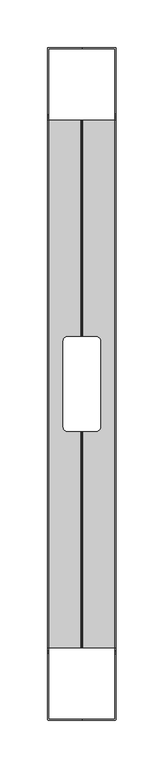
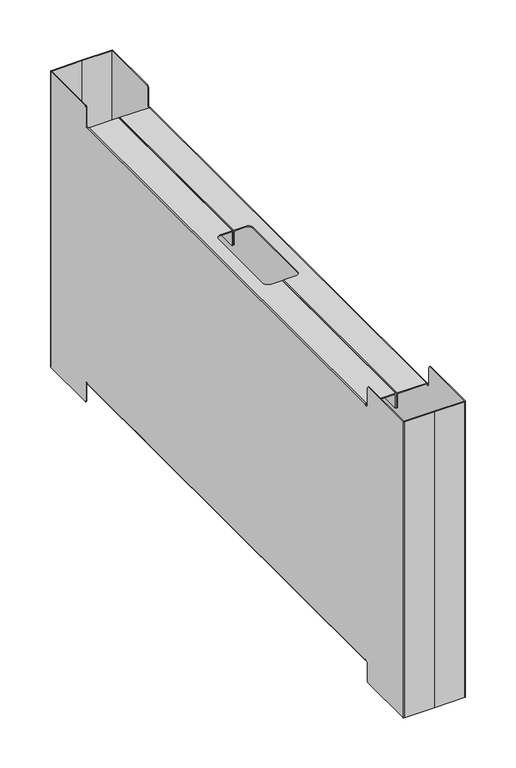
"""IFC4 building model written with IfcOpenShell, lengths in millimetres: furniture geometry, FREZZA_POP AD_Carter_for bench desk : Bracket_ZGBI - Embossed White."""

from ifc_helpers import new_model, si_unit, frame, origin, place, context, project, spatial, polyline, circle_curve, source, transform, mapped, element, save
from ifc_brep_helpers import plane_surface, cylinder_surface, revolved_surface, advanced_brep


def furniture_ed70f8aa(model_context):
    return source(origin(), model_context, "Body", "AdvancedBrep", [
        advanced_brep(
        [(1551.0, 237.05, 335.5), (1552.05, 237.05, 336.55), (1585.9, 237.05, 336.55), (1586.95, 237.05, 335.5), (1586.95, 237.05, 318.55), (1585.95, 237.05, 318.55), (1585.95, 237.05, 335.55), (1552.0, 237.05, 335.55), (1552.0, 237.05, 335.0), (1551.0, 237.05, 335.0), (1552.0, 237.05, 24.45), (1585.95, 237.05, 24.45), (1585.95, 237.05, 41.45), (1586.95, 237.05, 41.45), (1586.95, 237.05, 24.5), (1585.9, 237.05, 23.45), (1552.05, 237.05, 23.45), (1551.0, 237.05, 24.5), (1551.0, 237.05, 25.0), (1552.0, 237.05, 25.0), (1552.0, -316.05, 335.55), (1585.95, -316.05, 335.55), (1585.95, -316.05, 318.55), (1586.95, -316.05, 318.55), (1586.95, -316.05, 335.5), (1585.9, -316.05, 336.55), (1552.05, -316.05, 336.55), (1551.0, -316.05, 335.5), (1551.0, -316.05, 335.0), (1552.0, -316.05, 335.0), (1551.0, -316.05, 24.5), (1552.05, -316.05, 23.45), (1585.9, -316.05, 23.45), (1586.95, -316.05, 24.5), (1586.95, -316.05, 41.45), (1585.95, -316.05, 41.45), (1585.95, -316.05, 24.45), (1552.0, -316.05, 24.45), (1552.0, -316.05, 25.0), (1551.0, -316.05, 25.0), (1585.9, -89.5, 336.55), (1572.0, -89.5, 336.55), (1567.0, -84.5, 336.55), (1567.0, 5.5, 336.55), (1572.0, 10.5, 336.55), (1585.9, 10.5, 336.55), (1586.95, 10.5, 335.5), (1586.95, -89.5, 335.5), (1586.95, 10.5, 318.55), (1586.95, -89.5, 318.55), (1585.95, 10.5, 318.55), (1585.95, -89.5, 318.55), (1585.95, 10.5, 335.55), (1585.95, -89.5, 335.55), (1572.0, 10.5, 335.55), (1567.0, 5.5, 335.55), (1567.0, -84.5, 335.55), (1572.0, -89.5, 335.55), (1552.0, -318.5, 335.0), (1552.0, -320.5, 337.0), (1552.0, -320.5, 358.0), (1552.0, -322.5, 360.0), (1552.0, -391.05, 360.0), (1552.0, -391.05, 0.0), (1552.0, -322.5, 0.0), (1552.0, -320.5, 2.0), (1552.0, -320.5, 23.0), (1552.0, -318.5, 25.0), (1552.0, 239.5, 25.0), (1552.0, 241.5, 23.0), (1552.0, 241.5, 2.0), (1552.0, 243.5, 0.0), (1552.0, 312.05, 0.0), (1552.0, 312.05, 360.0), (1552.0, 243.5, 360.0), (1552.0, 241.5, 358.0), (1552.0, 241.5, 337.0), (1552.0, 239.5, 335.0), (1551.0, 239.5, 335.0), (1551.0, 241.5, 337.0), (1551.0, 241.5, 358.0), (1551.0, 243.5, 360.0), (1551.0, 312.05, 360.0), (1551.0, 312.05, 0.0), (1551.0, 243.5, 0.0), (1551.0, 241.5, 2.0), (1551.0, 241.5, 23.0), (1551.0, 239.5, 25.0), (1551.0, -318.5, 25.0), (1551.0, -320.5, 23.0), (1551.0, -320.5, 2.0), (1551.0, -322.5, 0.0), (1551.0, -391.0, 0.0), (1551.0, -391.0, 360.0), (1551.0, -322.5, 360.0), (1551.0, -320.5, 358.0), (1551.0, -320.5, 337.0), (1551.0, -318.5, 335.0), (1585.95, -89.5, 24.45), (1572.0, -89.5, 24.45), (1567.0, -84.5, 24.45), (1567.0, 5.5, 24.45), (1572.0, 10.5, 24.45), (1585.95, 10.5, 24.45), (1585.95, 10.5, 41.45), (1585.95, -89.5, 41.45), (1586.95, 10.5, 41.45), (1586.95, -89.5, 41.45), (1586.95, 10.5, 24.5), (1586.95, -89.5, 24.5), (1585.9, 10.5, 23.45), (1585.9, -89.5, 23.45), (1572.0, 10.5, 23.45), (1567.0, 5.5, 23.45), (1567.0, -84.5, 23.45), (1572.0, -89.5, 23.45), (1587.0, 313.05, 360.0), (1552.0, 313.05, 360.0), (1587.0, 312.05, 360.0), (1552.05, -392.05, 360.0), (1587.0, -392.05, 360.0), (1587.0, -391.05, 360.0), (1587.0, 313.05, 0.0), (1587.0, 312.05, 0.0), (1552.05, 313.05, 0.0), (1587.0, -391.05, 0.0), (1587.0, -392.05, 0.0), (1552.05, -392.05, 0.0)],
        [
            (0, 1, circle_curve(frame((1552.05, 237.05, 335.5), z_axis=(0.0, 1.0, 0.0), x_axis=(1.0, 0.0, 0.0)), 1.05)),
            (1, 2),
            (2, 3, circle_curve(frame((1585.9, 237.05, 335.5), z_axis=(0.0, 1.0, 0.0), x_axis=(1.0, 0.0, 0.0)), 1.05)),
            (3, 4),
            (4, 5),
            (5, 6),
            (6, 7),
            (7, 8),
            (8, 9),
            (9, 0),
            (10, 11),
            (11, 12),
            (12, 13),
            (13, 14),
            (14, 15, circle_curve(frame((1585.9, 237.05, 24.5), z_axis=(0.0, 1.0, 0.0), x_axis=(1.0, 0.0, 0.0)), 1.05)),
            (15, 16),
            (16, 17, circle_curve(frame((1552.05, 237.05, 24.5), z_axis=(0.0, 1.0, 0.0), x_axis=(1.0, 0.0, 0.0)), 1.05)),
            (17, 18),
            (18, 19),
            (19, 10),
            (20, 21),
            (21, 22),
            (22, 23),
            (23, 24),
            (24, 25, circle_curve(frame((1585.9, -316.05, 335.5), z_axis=(0.0, -1.0, 0.0), x_axis=(1.0, 0.0, 0.0)), 1.05)),
            (25, 26),
            (26, 27, circle_curve(frame((1552.05, -316.05, 335.5), z_axis=(0.0, -1.0, 0.0), x_axis=(1.0, 0.0, 0.0)), 1.05)),
            (27, 28),
            (28, 29),
            (29, 20),
            (30, 31, circle_curve(frame((1552.05, -316.05, 24.5), z_axis=(0.0, -1.0, 0.0), x_axis=(1.0, 0.0, 0.0)), 1.05)),
            (31, 32),
            (32, 33, circle_curve(frame((1585.9, -316.05, 24.5), z_axis=(0.0, -1.0, 0.0), x_axis=(1.0, 0.0, 0.0)), 1.05)),
            (33, 34),
            (34, 35),
            (35, 36),
            (36, 37),
            (37, 38),
            (38, 39),
            (39, 30),
            (0, 27),
            (26, 1),
            (25, 40),
            (40, 41),
            (41, 42, circle_curve(frame((1572.0, -84.5, 336.55), z_axis=(0.0, 0.0, -1.0), x_axis=(1.0, 0.0, 0.0)), 5.0)),
            (42, 43),
            (43, 44, circle_curve(frame((1572.0, 5.5, 336.55), z_axis=(0.0, 0.0, -1.0), x_axis=(1.0, 0.0, 0.0)), 5.0)),
            (44, 45),
            (45, 2),
            (45, 46, circle_curve(frame((1585.9, 10.5, 335.5), z_axis=(0.0, 1.0, 0.0), x_axis=(1.0, 0.0, 0.0)), 1.05)),
            (46, 3),
            (24, 47),
            (47, 40, circle_curve(frame((1585.9, -89.5, 335.5), z_axis=(0.0, -1.0, 0.0), x_axis=(1.0, 0.0, 0.0)), 1.05)),
            (46, 48),
            (48, 4),
            (23, 49),
            (49, 47),
            (48, 50),
            (50, 5),
            (22, 51),
            (51, 49),
            (50, 52),
            (52, 6),
            (21, 53),
            (53, 51),
            (52, 54),
            (54, 55, circle_curve(frame((1572.0, 5.5, 335.55), z_axis=(0.0, 0.0, 1.0), x_axis=(1.0, 0.0, 0.0)), 5.0)),
            (55, 56),
            (56, 57, circle_curve(frame((1572.0, -84.5, 335.55), z_axis=(0.0, 0.0, 1.0), x_axis=(1.0, 0.0, 0.0)), 5.0)),
            (57, 53),
            (20, 7),
            (29, 58),
            (58, 59, circle_curve(frame((1552.0, -318.5, 337.0), z_axis=(-1.0, 0.0, 0.0), x_axis=(0.0, -1.0, 0.0)), 2.0)),
            (59, 60),
            (60, 61, circle_curve(frame((1552.0, -322.5, 358.0), z_axis=(1.0, 0.0, 0.0), x_axis=(0.0, -1.0, 0.0)), 2.0)),
            (61, 62),
            (62, 63),
            (63, 64),
            (64, 65, circle_curve(frame((1552.0, -322.5, 2.0), z_axis=(1.0, 0.0, 0.0), x_axis=(0.0, -1.0, 0.0)), 2.0)),
            (65, 66),
            (66, 67, circle_curve(frame((1552.0, -318.5, 23.0), z_axis=(-1.0, 0.0, 0.0), x_axis=(0.0, -1.0, 0.0)), 2.0)),
            (67, 38),
            (37, 10),
            (19, 68),
            (68, 69, circle_curve(frame((1552.0, 239.5, 23.0), z_axis=(-1.0, 0.0, 0.0), x_axis=(0.0, -1.0, 0.0)), 2.0)),
            (69, 70),
            (70, 71, circle_curve(frame((1552.0, 243.5, 2.0), z_axis=(1.0, 0.0, 0.0), x_axis=(0.0, -1.0, 0.0)), 2.0)),
            (71, 72),
            (72, 73),
            (73, 74),
            (74, 75, circle_curve(frame((1552.0, 243.5, 358.0), z_axis=(1.0, 0.0, 0.0), x_axis=(0.0, -1.0, 0.0)), 2.0)),
            (75, 76),
            (76, 77, circle_curve(frame((1552.0, 239.5, 337.0), z_axis=(-1.0, 0.0, 0.0), x_axis=(0.0, -1.0, 0.0)), 2.0)),
            (77, 8),
            (9, 78),
            (78, 79, circle_curve(frame((1551.0, 239.5, 337.0), z_axis=(1.0, 0.0, 0.0), x_axis=(0.0, -1.0, 0.0)), 2.0)),
            (79, 80),
            (80, 81, circle_curve(frame((1551.0, 243.5, 358.0), z_axis=(-1.0, 0.0, 0.0), x_axis=(0.0, -1.0, 0.0)), 2.0)),
            (81, 82),
            (82, 83),
            (83, 84),
            (84, 85, circle_curve(frame((1551.0, 243.5, 2.0), z_axis=(-1.0, 0.0, 0.0), x_axis=(0.0, -1.0, 0.0)), 2.0)),
            (85, 86),
            (86, 87, circle_curve(frame((1551.0, 239.5, 23.0), z_axis=(1.0, 0.0, 0.0), x_axis=(0.0, -1.0, 0.0)), 2.0)),
            (87, 18),
            (17, 30),
            (39, 88),
            (88, 89, circle_curve(frame((1551.0, -318.5, 23.0), z_axis=(1.0, 0.0, 0.0), x_axis=(0.0, -1.0, 0.0)), 2.0)),
            (89, 90),
            (90, 91, circle_curve(frame((1551.0, -322.5, 2.0), z_axis=(-1.0, 0.0, 0.0), x_axis=(0.0, -1.0, 0.0)), 2.0)),
            (91, 92),
            (92, 93),
            (93, 94),
            (94, 95, circle_curve(frame((1551.0, -322.5, 358.0), z_axis=(-1.0, 0.0, 0.0), x_axis=(0.0, -1.0, 0.0)), 2.0)),
            (95, 96),
            (96, 97, circle_curve(frame((1551.0, -318.5, 337.0), z_axis=(1.0, 0.0, 0.0), x_axis=(0.0, -1.0, 0.0)), 2.0)),
            (97, 28),
            (36, 98),
            (98, 99),
            (99, 100, circle_curve(frame((1572.0, -84.5, 24.45), z_axis=(0.0, 0.0, -1.0), x_axis=(1.0, 0.0, 0.0)), 5.0)),
            (100, 101),
            (101, 102, circle_curve(frame((1572.0, 5.5, 24.45), z_axis=(0.0, 0.0, -1.0), x_axis=(1.0, 0.0, 0.0)), 5.0)),
            (102, 103),
            (103, 11),
            (103, 104),
            (104, 12),
            (35, 105),
            (105, 98),
            (104, 106),
            (106, 13),
            (34, 107),
            (107, 105),
            (106, 108),
            (108, 14),
            (33, 109),
            (109, 107),
            (108, 110, circle_curve(frame((1585.9, 10.5, 24.5), z_axis=(0.0, 1.0, 0.0), x_axis=(1.0, 0.0, 0.0)), 1.05)),
            (110, 15),
            (32, 111),
            (111, 109, circle_curve(frame((1585.9, -89.5, 24.5), z_axis=(0.0, -1.0, 0.0), x_axis=(1.0, 0.0, 0.0)), 1.05)),
            (110, 112),
            (112, 113, circle_curve(frame((1572.0, 5.5, 23.45), z_axis=(0.0, 0.0, 1.0), x_axis=(1.0, 0.0, 0.0)), 5.0)),
            (113, 114),
            (114, 115, circle_curve(frame((1572.0, -84.5, 23.45), z_axis=(0.0, 0.0, 1.0), x_axis=(1.0, 0.0, 0.0)), 5.0)),
            (115, 111),
            (31, 16),
            (56, 42),
            (41, 57),
            (114, 100),
            (99, 115),
            (44, 54),
            (102, 112),
            (43, 55),
            (101, 113),
            (116, 117),
            (117, 82, circle_curve(frame((1552.05, 312.0, 360.0), z_axis=(0.0, 0.0, 1.0), x_axis=(1.0, 0.0, 0.0)), 1.05)),
            (81, 74),
            (73, 118),
            (118, 116),
            (93, 119, circle_curve(frame((1552.05, -391.0, 360.0), z_axis=(0.0, 0.0, 1.0), x_axis=(1.0, 0.0, 0.0)), 1.05)),
            (119, 120),
            (120, 121),
            (121, 62),
            (61, 94),
            (122, 123),
            (123, 72),
            (71, 84),
            (83, 124, circle_curve(frame((1552.05, 312.0, 0.0), z_axis=(0.0, 0.0, -1.0), x_axis=(1.0, 0.0, 0.0)), 1.05)),
            (124, 122),
            (63, 125),
            (125, 126),
            (126, 127),
            (127, 92, circle_curve(frame((1552.05, -391.0, 0.0), z_axis=(0.0, 0.0, -1.0), x_axis=(1.0, 0.0, 0.0)), 1.05)),
            (91, 64),
            (116, 122),
            (124, 117),
            (127, 119),
            (126, 120),
            (125, 121),
            (123, 118),
            (80, 75),
            (79, 76),
            (78, 77),
            (97, 58),
            (96, 59),
            (95, 60),
            (90, 65),
            (89, 66),
            (88, 67),
            (87, 68),
            (86, 69),
            (85, 70),
        ],
        [
            plane_surface(frame((1587.0, 237.05, 0.0), z_axis=(0.0, 1.0, 0.0), x_axis=(0.0, 0.0, 1.0))),
            plane_surface(frame((1587.0, -316.05, 0.0), z_axis=(0.0, -1.0, 0.0), x_axis=(0.0, 0.0, 1.0))),
            cylinder_surface(frame((1552.05, 237.05, 335.5), z_axis=(0.0, 1.0, 0.0), x_axis=(1.0, 0.0, 0.0)), 1.05),
            plane_surface(frame((1552.05, 237.05, 336.55), z_axis=(0.0, 0.0, 1.0), x_axis=(0.0, -1.0, 0.0))),
            cylinder_surface(frame((1585.9, 237.05, 335.5), z_axis=(0.0, 1.0, 0.0), x_axis=(1.0, 0.0, 0.0)), 1.05),
            plane_surface(frame((1586.95, 237.05, 335.5), z_axis=(1.0, 0.0, 0.0), x_axis=(0.0, -1.0, 0.0))),
            plane_surface(frame((1586.95, 237.05, 318.55), z_axis=(0.0, 0.0, -1.0), x_axis=(0.0, -1.0, 0.0))),
            plane_surface(frame((1585.95, 237.05, 318.55), z_axis=(-1.0, 0.0, 0.0), x_axis=(0.0, -1.0, 0.0))),
            plane_surface(frame((1585.95, 237.05, 335.55), z_axis=(0.0, 0.0, -1.0), x_axis=(0.0, -1.0, 0.0))),
            plane_surface(frame((1552.0, 237.05, 335.55), z_axis=(1.0, 0.0, 0.0), x_axis=(0.0, -1.0, 0.0))),
            plane_surface(frame((1551.0, 237.05, 334.55), z_axis=(-1.0, 0.0, 0.0), x_axis=(0.0, -1.0, 0.0))),
            plane_surface(frame((1552.0, 237.05, 24.45), z_axis=(0.0, 0.0, 1.0), x_axis=(0.0, -1.0, 0.0))),
            plane_surface(frame((1585.95, 237.05, 24.45), z_axis=(-1.0, 0.0, 0.0), x_axis=(0.0, -1.0, 0.0))),
            plane_surface(frame((1585.95, 237.05, 41.45), z_axis=(0.0, 0.0, 1.0), x_axis=(0.0, -1.0, 0.0))),
            plane_surface(frame((1586.95, 237.05, 41.45), z_axis=(1.0, 0.0, 0.0), x_axis=(0.0, -1.0, 0.0))),
            cylinder_surface(frame((1585.9, 237.05, 24.5), z_axis=(0.0, 1.0, 0.0), x_axis=(1.0, 0.0, 0.0)), 1.05),
            plane_surface(frame((1585.9, 237.05, 23.45), z_axis=(0.0, 0.0, -1.0), x_axis=(0.0, -1.0, 0.0))),
            cylinder_surface(frame((1552.05, 237.05, 24.5), z_axis=(0.0, 1.0, 0.0), x_axis=(1.0, 0.0, 0.0)), 1.05),
            revolved_surface(polyline([(1577.0, -84.5, 336.55), (1577.0, -84.5, 335.55)]), (1572.0, -84.5, 0.0), (0.0, 0.0, 1.0)),
            revolved_surface(polyline([(1577.0, -84.5, 24.45), (1577.0, -84.5, 23.45)]), (1572.0, -84.5, 0.0), (0.0, 0.0, 1.0)),
            plane_surface(frame((1572.0, -89.5, 360.0), z_axis=(0.0, 1.0, 0.0), x_axis=(0.0, 0.0, -1.0))),
            plane_surface(frame((1602.0, 10.5, 360.0), z_axis=(0.0, -1.0, 0.0), x_axis=(0.0, 0.0, -1.0))),
            revolved_surface(polyline([(1577.0, 5.5, 336.55), (1577.0, 5.5, 335.55)]), (1572.0, 5.5, 0.0), (0.0, 0.0, 1.0)),
            revolved_surface(polyline([(1577.0, 5.5, 24.45), (1577.0, 5.5, 23.45)]), (1572.0, 5.5, 0.0), (0.0, 0.0, 1.0)),
            plane_surface(frame((1567.0, 5.5, 360.0), z_axis=(1.0, 0.0, 0.0), x_axis=(0.0, 0.0, -1.0))),
            plane_surface(frame((1552.0, 313.05, 360.0), z_axis=(0.0, 0.0, 1.0), x_axis=(-1.0, 0.0, 0.0))),
            plane_surface(frame((1552.0, 313.05, 0.0), z_axis=(0.0, 0.0, -1.0), x_axis=(1.0, 0.0, 0.0))),
            plane_surface(frame((1587.0, 313.05, 360.0), z_axis=(0.0, 1.0, 0.0), x_axis=(0.0, 0.0, -1.0))),
            cylinder_surface(frame((1552.05, 312.0, 0.0), z_axis=(0.0, 0.0, 1.0), x_axis=(1.0, 0.0, 0.0)), 1.05),
            cylinder_surface(frame((1552.05, -391.0, 0.0), z_axis=(0.0, 0.0, 1.0), x_axis=(1.0, 0.0, 0.0)), 1.05),
            plane_surface(frame((1552.05, -392.05, 360.0), z_axis=(0.0, -1.0, 0.0), x_axis=(0.0, 0.0, -1.0))),
            plane_surface(frame((1587.0, -392.05, 360.0), z_axis=(1.0, 0.0, 0.0), x_axis=(0.0, 0.0, -1.0))),
            plane_surface(frame((1587.0, -391.05, 360.0), z_axis=(0.0, 1.0, 0.0), x_axis=(0.0, 0.0, -1.0))),
            plane_surface(frame((1552.0, 312.05, 360.0), z_axis=(0.0, -1.0, 0.0), x_axis=(0.0, 0.0, -1.0))),
            plane_surface(frame((1587.0, 312.05, 360.0), z_axis=(1.0, 0.0, 0.0), x_axis=(0.0, 0.0, -1.0))),
            cylinder_surface(frame((1627.0, 243.5, 358.0), z_axis=(1.0, 0.0, 0.0), x_axis=(0.0, -1.0, 0.0)), 2.0),
            plane_surface(frame((1547.0, 241.5, 358.0), z_axis=(0.0, -1.0, 0.0), x_axis=(1.0, 0.0, 0.0))),
            revolved_surface(polyline([(1551.0, 237.5, 337.0), (1552.0, 237.5, 337.0)]), (1627.0, 239.5, 337.0), (-1.0, 0.0, 0.0)),
            plane_surface(frame((1547.0, 239.5, 335.0), z_axis=(0.0, 0.0, 1.0), x_axis=(1.0, 0.0, 0.0))),
            revolved_surface(polyline([(1551.0, -320.5, 337.0), (1552.0, -320.5, 337.0)]), (1627.0, -318.5, 337.0), (-1.0, 0.0, 0.0)),
            plane_surface(frame((1547.0, -320.5, 337.0), z_axis=(0.0, 1.0, 0.0), x_axis=(1.0, 0.0, 0.0))),
            cylinder_surface(frame((1627.0, -322.5, 358.0), z_axis=(1.0, 0.0, 0.0), x_axis=(0.0, -1.0, 0.0)), 2.0),
            cylinder_surface(frame((1547.0, -322.5, 2.0), z_axis=(1.0, 0.0, 0.0), x_axis=(0.0, -1.0, 0.0)), 2.0),
            plane_surface(frame((1547.0, -320.5, 2.0), z_axis=(0.0, 1.0, 0.0), x_axis=(1.0, 0.0, 0.0))),
            revolved_surface(polyline([(1551.0, -320.5, 23.0), (1552.0, -320.5, 23.0)]), (1547.0, -318.5, 23.0), (-1.0, 0.0, 0.0)),
            plane_surface(frame((1547.0, -318.5, 25.0), z_axis=(0.0, 0.0, -1.0), x_axis=(1.0, 0.0, 0.0))),
            revolved_surface(polyline([(1551.0, 237.5, 23.0), (1552.0, 237.5, 23.0)]), (1547.0, 239.5, 23.0), (-1.0, 0.0, 0.0)),
            plane_surface(frame((1547.0, 241.5, 23.0), z_axis=(0.0, -1.0, 0.0), x_axis=(1.0, 0.0, 0.0))),
            cylinder_surface(frame((1547.0, 243.5, 2.0), z_axis=(1.0, 0.0, 0.0), x_axis=(0.0, -1.0, 0.0)), 2.0),
        ],
        [
            (0, [[1, 2, 3, 4, 5, 6, 7, 8, 9, 10]]),
            (0, [[11, 12, 13, 14, 15, 16, 17, 18, 19, 20]]),
            (1, [[21, 22, 23, 24, 25, 26, 27, 28, 29, 30]]),
            (1, [[31, 32, 33, 34, 35, 36, 37, 38, 39, 40]]),
            (2, [[-1, 41, -27, 42]]),
            (3, [[-2, -42, -26, 43, 44, 45, 46, 47, 48, 49]]),
            (4, [[-3, -49, 50, 51]]),
            (4, [[-25, 52, 53, -43]]),
            (5, [[-4, -51, 54, 55]]),
            (5, [[-24, 56, 57, -52]]),
            (6, [[-5, -55, 58, 59]]),
            (6, [[-23, 60, 61, -56]]),
            (7, [[-6, -59, 62, 63]]),
            (7, [[-22, 64, 65, -60]]),
            (8, [[-7, -63, 66, 67, 68, 69, 70, -64, -21, 71]]),
            (9, [[-71, -30, 72, 73, 74, 75, 76, 77, 78, 79, 80, 81, 82, -38, 83, -20, 84, 85, 86, 87, 88, 89, 90, 91, 92, 93, 94, -8]]),
            (10, [[-41, -10, 95, 96, 97, 98, 99, 100, 101, 102, 103, 104, 105, -18, 106, -40, 107, 108, 109, 110, 111, 112, 113, 114, 115, 116, 117, -28]]),
            (11, [[-11, -83, -37, 118, 119, 120, 121, 122, 123, 124]]),
            (12, [[-12, -124, 125, 126]]),
            (12, [[-36, 127, 128, -118]]),
            (13, [[-13, -126, 129, 130]]),
            (13, [[-35, 131, 132, -127]]),
            (14, [[-14, -130, 133, 134]]),
            (14, [[-34, 135, 136, -131]]),
            (15, [[-15, -134, 137, 138]]),
            (15, [[-33, 139, 140, -135]]),
            (16, [[-16, -138, 141, 142, 143, 144, 145, -139, -32, 146]]),
            (17, [[-17, -146, -31, -106]]),
            (18, [[147, -45, 148, -69]]),
            (19, [[149, -120, 150, -144]]),
            (20, [[-148, -44, -53, -57, -61, -65, -70]]),
            (20, [[-150, -119, -128, -132, -136, -140, -145]]),
            (21, [[151, -66, -62, -58, -54, -50, -48]]),
            (21, [[152, -141, -137, -133, -129, -125, -123]]),
            (22, [[-151, -47, 153, -67]]),
            (23, [[-152, -122, 154, -142]]),
            (24, [[-147, -68, -153, -46]]),
            (24, [[-149, -143, -154, -121]]),
            (25, [[155, 156, -99, 157, -90, 158, 159]]),
            (25, [[160, 161, 162, 163, -76, 164, -113]]),
            (26, [[165, 166, -88, 167, -101, 168, 169]]),
            (26, [[170, 171, 172, 173, -111, 174, -78]]),
            (27, [[-155, 175, -169, 176]]),
            (28, [[-156, -176, -168, -100]]),
            (29, [[-160, -112, -173, 177]]),
            (30, [[-161, -177, -172, 178]]),
            (31, [[-162, -178, -171, 179]]),
            (32, [[-163, -179, -170, -77]]),
            (33, [[-158, -89, -166, 180]]),
            (34, [[-159, -180, -165, -175]]),
            (35, [[181, -91, -157, -98]]),
            (36, [[-181, -97, 182, -92]]),
            (37, [[-182, -96, 183, -93]]),
            (38, [[-183, -95, -9, -94]]),
            (38, [[184, -72, -29, -117]]),
            (39, [[-184, -116, 185, -73]]),
            (40, [[-185, -115, 186, -74]]),
            (41, [[-186, -114, -164, -75]]),
            (42, [[187, -79, -174, -110]]),
            (43, [[-187, -109, 188, -80]]),
            (44, [[-188, -108, 189, -81]]),
            (45, [[-189, -107, -39, -82]]),
            (45, [[190, -84, -19, -105]]),
            (46, [[-190, -104, 191, -85]]),
            (47, [[-191, -103, 192, -86]]),
            (48, [[-192, -102, -167, -87]]),
        ],
    ),
        advanced_brep(
        [(1602.0, -89.5, 336.55), (1602.0, -89.5, 335.55), (1588.05, -89.5, 335.55), (1588.05, -89.5, 318.55), (1587.05, -89.5, 318.55), (1587.05, -89.5, 335.5), (1588.1, -89.5, 336.55), (1602.0, -89.5, 24.45), (1602.0, -89.5, 23.45), (1588.1, -89.5, 23.45), (1587.05, -89.5, 24.5), (1587.05, -89.5, 41.45), (1588.05, -89.5, 41.45), (1588.05, -89.5, 24.45), (1607.0, -84.5, 336.55), (1607.0, -84.5, 335.55), (1607.0, -84.5, 24.45), (1607.0, -84.5, 23.45), (1607.0, 5.5, 336.55), (1607.0, 5.5, 335.55), (1607.0, 5.5, 24.45), (1607.0, 5.5, 23.45), (1602.0, 10.5, 336.55), (1602.0, 10.5, 335.55), (1602.0, 10.5, 24.45), (1602.0, 10.5, 23.45), (1588.1, 10.5, 336.55), (1587.05, 10.5, 335.5), (1587.05, 10.5, 318.55), (1588.05, 10.5, 318.55), (1588.05, 10.5, 335.55), (1588.05, 10.5, 24.45), (1588.05, 10.5, 41.45), (1587.05, 10.5, 41.45), (1587.05, 10.5, 24.5), (1588.1, 10.5, 23.45), (1622.0, 237.05, 335.55), (1588.05, 237.05, 335.55), (1588.05, 237.05, 318.55), (1587.05, 237.05, 318.55), (1587.05, 237.05, 335.5), (1588.1, 237.05, 336.55), (1621.95, 237.05, 336.55), (1623.0, 237.05, 335.5), (1623.0, 237.05, 335.0), (1622.0, 237.05, 335.0), (1623.0, 237.05, 24.5), (1621.95, 237.05, 23.45), (1588.1, 237.05, 23.45), (1587.05, 237.05, 24.5), (1587.05, 237.05, 41.45), (1588.05, 237.05, 41.45), (1588.05, 237.05, 24.45), (1622.0, 237.05, 24.45), (1622.0, 237.05, 25.0), (1623.0, 237.05, 25.0), (1623.0, -316.05, 335.5), (1621.95, -316.05, 336.55), (1588.1, -316.05, 336.55), (1587.05, -316.05, 335.5), (1587.05, -316.05, 318.55), (1588.05, -316.05, 318.55), (1588.05, -316.05, 335.55), (1622.0, -316.05, 335.55), (1622.0, -316.05, 335.0), (1623.0, -316.05, 335.0), (1622.0, -316.05, 24.45), (1588.05, -316.05, 24.45), (1588.05, -316.05, 41.45), (1587.05, -316.05, 41.45), (1587.05, -316.05, 24.5), (1588.1, -316.05, 23.45), (1621.95, -316.05, 23.45), (1623.0, -316.05, 24.5), (1623.0, -316.05, 25.0), (1622.0, -316.05, 25.0), (1622.0, 239.5, 335.0), (1622.0, 241.5, 337.0), (1622.0, 241.5, 358.0), (1622.0, 243.5, 360.0), (1622.0, 312.05, 360.0), (1622.0, 312.05, 0.0), (1622.0, 243.5, 0.0), (1622.0, 241.5, 2.0), (1622.0, 241.5, 23.0), (1622.0, 239.5, 25.0), (1622.0, -318.5, 25.0), (1622.0, -320.5, 23.0), (1622.0, -320.5, 2.0), (1622.0, -322.5, 0.0), (1622.0, -391.05, 0.0), (1622.0, -391.05, 360.0), (1622.0, -322.5, 360.0), (1622.0, -320.5, 358.0), (1622.0, -320.5, 337.0), (1622.0, -318.5, 335.0), (1623.0, -318.5, 335.0), (1623.0, -320.5, 337.0), (1623.0, -320.5, 358.0), (1623.0, -322.5, 360.0), (1623.0, -391.0, 360.0), (1623.0, -391.0, 0.0), (1623.0, -322.5, 0.0), (1623.0, -320.5, 2.0), (1623.0, -320.5, 23.0), (1623.0, -318.5, 25.0), (1623.0, 239.5, 25.0), (1623.0, 241.5, 23.0), (1623.0, 241.5, 2.0), (1623.0, 243.5, 0.0), (1623.0, 312.05, 0.0), (1623.0, 312.0, 360.0), (1623.0, 243.5, 360.0), (1623.0, 241.5, 358.0), (1623.0, 241.5, 337.0), (1623.0, 239.5, 335.0), (1587.0, 313.05, 360.0), (1587.0, 312.05, 360.0), (1621.95, 313.05, 360.0), (1587.0, -391.05, 360.0), (1587.0, -392.05, 360.0), (1621.95, -392.05, 360.0), (1587.0, 313.05, 0.0), (1622.0, 313.05, 0.0), (1587.0, 312.05, 0.0), (1621.95, -392.05, 0.0), (1587.0, -392.05, 0.0), (1587.0, -391.05, 0.0)],
        [
            (0, 1),
            (1, 2),
            (2, 3),
            (3, 4),
            (4, 5),
            (5, 6, circle_curve(frame((1588.1, -89.5, 335.5), z_axis=(0.0, 1.0, 0.0), x_axis=(1.0, 0.0, 0.0)), 1.05)),
            (6, 0),
            (7, 8),
            (8, 9),
            (9, 10, circle_curve(frame((1588.1, -89.5, 24.5), z_axis=(0.0, 1.0, 0.0), x_axis=(1.0, 0.0, 0.0)), 1.05)),
            (10, 11),
            (11, 12),
            (12, 13),
            (13, 7),
            (0, 14, circle_curve(frame((1602.0, -84.5, 336.55), z_axis=(0.0, 0.0, 1.0), x_axis=(1.0, 0.0, 0.0)), 5.0)),
            (14, 15),
            (15, 1, circle_curve(frame((1602.0, -84.5, 335.55), z_axis=(0.0, 0.0, -1.0), x_axis=(1.0, 0.0, 0.0)), 5.0)),
            (7, 16, circle_curve(frame((1602.0, -84.5, 24.45), z_axis=(0.0, 0.0, 1.0), x_axis=(1.0, 0.0, 0.0)), 5.0)),
            (16, 17),
            (17, 8, circle_curve(frame((1602.0, -84.5, 23.45), z_axis=(0.0, 0.0, -1.0), x_axis=(1.0, 0.0, 0.0)), 5.0)),
            (14, 18),
            (18, 19),
            (19, 15),
            (16, 20),
            (20, 21),
            (21, 17),
            (18, 22, circle_curve(frame((1602.0, 5.5, 336.55), z_axis=(0.0, 0.0, 1.0), x_axis=(1.0, 0.0, 0.0)), 5.0)),
            (22, 23),
            (23, 19, circle_curve(frame((1602.0, 5.5, 335.55), z_axis=(0.0, 0.0, -1.0), x_axis=(1.0, 0.0, 0.0)), 5.0)),
            (20, 24, circle_curve(frame((1602.0, 5.5, 24.45), z_axis=(0.0, 0.0, 1.0), x_axis=(1.0, 0.0, 0.0)), 5.0)),
            (24, 25),
            (25, 21, circle_curve(frame((1602.0, 5.5, 23.45), z_axis=(0.0, 0.0, -1.0), x_axis=(1.0, 0.0, 0.0)), 5.0)),
            (22, 26),
            (26, 27, circle_curve(frame((1588.1, 10.5, 335.5), z_axis=(0.0, -1.0, 0.0), x_axis=(1.0, 0.0, 0.0)), 1.05)),
            (27, 28),
            (28, 29),
            (29, 30),
            (30, 23),
            (24, 31),
            (31, 32),
            (32, 33),
            (33, 34),
            (34, 35, circle_curve(frame((1588.1, 10.5, 24.5), z_axis=(0.0, -1.0, 0.0), x_axis=(1.0, 0.0, 0.0)), 1.05)),
            (35, 25),
            (36, 37),
            (37, 38),
            (38, 39),
            (39, 40),
            (40, 41, circle_curve(frame((1588.1, 237.05, 335.5), z_axis=(0.0, 1.0, 0.0), x_axis=(1.0, 0.0, 0.0)), 1.05)),
            (41, 42),
            (42, 43, circle_curve(frame((1621.95, 237.05, 335.5), z_axis=(0.0, 1.0, 0.0), x_axis=(1.0, 0.0, 0.0)), 1.05)),
            (43, 44),
            (44, 45),
            (45, 36),
            (46, 47, circle_curve(frame((1621.95, 237.05, 24.5), z_axis=(0.0, 1.0, 0.0), x_axis=(1.0, 0.0, 0.0)), 1.05)),
            (47, 48),
            (48, 49, circle_curve(frame((1588.1, 237.05, 24.5), z_axis=(0.0, 1.0, 0.0), x_axis=(1.0, 0.0, 0.0)), 1.05)),
            (49, 50),
            (50, 51),
            (51, 52),
            (52, 53),
            (53, 54),
            (54, 55),
            (55, 46),
            (56, 57, circle_curve(frame((1621.95, -316.05, 335.5), z_axis=(0.0, -1.0, 0.0), x_axis=(1.0, 0.0, 0.0)), 1.05)),
            (57, 58),
            (58, 59, circle_curve(frame((1588.1, -316.05, 335.5), z_axis=(0.0, -1.0, 0.0), x_axis=(1.0, 0.0, 0.0)), 1.05)),
            (59, 60),
            (60, 61),
            (61, 62),
            (62, 63),
            (63, 64),
            (64, 65),
            (65, 56),
            (66, 67),
            (67, 68),
            (68, 69),
            (69, 70),
            (70, 71, circle_curve(frame((1588.1, -316.05, 24.5), z_axis=(0.0, -1.0, 0.0), x_axis=(1.0, 0.0, 0.0)), 1.05)),
            (71, 72),
            (72, 73, circle_curve(frame((1621.95, -316.05, 24.5), z_axis=(0.0, -1.0, 0.0), x_axis=(1.0, 0.0, 0.0)), 1.05)),
            (73, 74),
            (74, 75),
            (75, 66),
            (42, 57),
            (56, 43),
            (41, 26),
            (6, 58),
            (40, 27),
            (5, 59),
            (39, 28),
            (4, 60),
            (38, 29),
            (3, 61),
            (37, 30),
            (2, 62),
            (36, 63),
            (45, 76),
            (76, 77, circle_curve(frame((1622.0, 239.5, 337.0), z_axis=(1.0, 0.0, 0.0), x_axis=(0.0, -1.0, 0.0)), 2.0)),
            (77, 78),
            (78, 79, circle_curve(frame((1622.0, 243.5, 358.0), z_axis=(-1.0, 0.0, 0.0), x_axis=(0.0, -1.0, 0.0)), 2.0)),
            (79, 80),
            (80, 81),
            (81, 82),
            (82, 83, circle_curve(frame((1622.0, 243.5, 2.0), z_axis=(-1.0, 0.0, 0.0), x_axis=(0.0, -1.0, 0.0)), 2.0)),
            (83, 84),
            (84, 85, circle_curve(frame((1622.0, 239.5, 23.0), z_axis=(1.0, 0.0, 0.0), x_axis=(0.0, -1.0, 0.0)), 2.0)),
            (85, 54),
            (53, 66),
            (75, 86),
            (86, 87, circle_curve(frame((1622.0, -318.5, 23.0), z_axis=(1.0, 0.0, 0.0), x_axis=(0.0, -1.0, 0.0)), 2.0)),
            (87, 88),
            (88, 89, circle_curve(frame((1622.0, -322.5, 2.0), z_axis=(-1.0, 0.0, 0.0), x_axis=(0.0, -1.0, 0.0)), 2.0)),
            (89, 90),
            (90, 91),
            (91, 92),
            (92, 93, circle_curve(frame((1622.0, -322.5, 358.0), z_axis=(-1.0, 0.0, 0.0), x_axis=(0.0, -1.0, 0.0)), 2.0)),
            (93, 94),
            (94, 95, circle_curve(frame((1622.0, -318.5, 337.0), z_axis=(1.0, 0.0, 0.0), x_axis=(0.0, -1.0, 0.0)), 2.0)),
            (95, 64),
            (65, 96),
            (96, 97, circle_curve(frame((1623.0, -318.5, 337.0), z_axis=(-1.0, 0.0, 0.0), x_axis=(0.0, -1.0, 0.0)), 2.0)),
            (97, 98),
            (98, 99, circle_curve(frame((1623.0, -322.5, 358.0), z_axis=(1.0, 0.0, 0.0), x_axis=(0.0, -1.0, 0.0)), 2.0)),
            (99, 100),
            (100, 101),
            (101, 102),
            (102, 103, circle_curve(frame((1623.0, -322.5, 2.0), z_axis=(1.0, 0.0, 0.0), x_axis=(0.0, -1.0, 0.0)), 2.0)),
            (103, 104),
            (104, 105, circle_curve(frame((1623.0, -318.5, 23.0), z_axis=(-1.0, 0.0, 0.0), x_axis=(0.0, -1.0, 0.0)), 2.0)),
            (105, 74),
            (73, 46),
            (55, 106),
            (106, 107, circle_curve(frame((1623.0, 239.5, 23.0), z_axis=(-1.0, 0.0, 0.0), x_axis=(0.0, -1.0, 0.0)), 2.0)),
            (107, 108),
            (108, 109, circle_curve(frame((1623.0, 243.5, 2.0), z_axis=(1.0, 0.0, 0.0), x_axis=(0.0, -1.0, 0.0)), 2.0)),
            (109, 110),
            (110, 111),
            (111, 112),
            (112, 113, circle_curve(frame((1623.0, 243.5, 358.0), z_axis=(1.0, 0.0, 0.0), x_axis=(0.0, -1.0, 0.0)), 2.0)),
            (113, 114),
            (114, 115, circle_curve(frame((1623.0, 239.5, 337.0), z_axis=(-1.0, 0.0, 0.0), x_axis=(0.0, -1.0, 0.0)), 2.0)),
            (115, 44),
            (52, 31),
            (13, 67),
            (51, 32),
            (12, 68),
            (50, 33),
            (11, 69),
            (49, 34),
            (10, 70),
            (48, 35),
            (9, 71),
            (47, 72),
            (78, 113),
            (112, 79),
            (77, 114),
            (76, 115),
            (95, 96),
            (94, 97),
            (93, 98),
            (92, 99),
            (88, 103),
            (102, 89),
            (87, 104),
            (86, 105),
            (85, 106),
            (84, 107),
            (83, 108),
            (82, 109),
            (116, 117),
            (117, 80),
            (111, 118, circle_curve(frame((1621.95, 312.0, 360.0), z_axis=(0.0, 0.0, 1.0), x_axis=(-1.0, 0.0, 0.0)), 1.05)),
            (118, 116),
            (91, 119),
            (119, 120),
            (120, 121),
            (121, 100, circle_curve(frame((1621.95, -391.0, 360.0), z_axis=(0.0, 0.0, 1.0), x_axis=(-1.0, 0.0, 0.0)), 1.05)),
            (122, 123),
            (123, 110, circle_curve(frame((1621.95, 312.0, 0.0), z_axis=(0.0, 0.0, -1.0), x_axis=(-1.0, 0.0, 0.0)), 1.05)),
            (81, 124),
            (124, 122),
            (101, 125, circle_curve(frame((1621.95, -391.0, 0.0), z_axis=(0.0, 0.0, -1.0), x_axis=(-1.0, 0.0, 0.0)), 1.05)),
            (125, 126),
            (126, 127),
            (127, 90),
            (118, 123),
            (122, 116),
            (121, 125),
            (120, 126),
            (119, 127),
            (117, 124),
        ],
        [
            plane_surface(frame((1572.0, -89.5, 360.0), z_axis=(0.0, 1.0, 0.0), x_axis=(0.0, 0.0, -1.0))),
            revolved_surface(polyline([(1607.0, -84.5, 336.55), (1607.0, -84.5, 335.55)]), (1602.0, -84.5, 0.0), (0.0, 0.0, 1.0)),
            revolved_surface(polyline([(1607.0, -84.5, 24.45), (1607.0, -84.5, 23.45)]), (1602.0, -84.5, 0.0), (0.0, 0.0, 1.0)),
            plane_surface(frame((1607.0, -84.5, 360.0), z_axis=(-1.0, 0.0, 0.0), x_axis=(0.0, 0.0, -1.0))),
            revolved_surface(polyline([(1607.0, 5.5, 336.55), (1607.0, 5.5, 335.55)]), (1602.0, 5.5, 0.0), (0.0, 0.0, 1.0)),
            revolved_surface(polyline([(1607.0, 5.5, 24.45), (1607.0, 5.5, 23.45)]), (1602.0, 5.5, 0.0), (0.0, 0.0, 1.0)),
            plane_surface(frame((1602.0, 10.5, 360.0), z_axis=(0.0, -1.0, 0.0), x_axis=(0.0, 0.0, -1.0))),
            plane_surface(frame((1587.0, 237.05, 0.0), z_axis=(0.0, 1.0, 0.0), x_axis=(0.0, 0.0, 1.0))),
            plane_surface(frame((1587.0, -316.05, 0.0), z_axis=(0.0, -1.0, 0.0), x_axis=(0.0, 0.0, 1.0))),
            cylinder_surface(frame((1621.95, 237.05, 335.5), z_axis=(0.0, 1.0, 0.0), x_axis=(1.0, 0.0, 0.0)), 1.05),
            plane_surface(frame((1588.1, 237.05, 336.55), z_axis=(0.0, 0.0, 1.0), x_axis=(0.0, -1.0, 0.0))),
            cylinder_surface(frame((1588.1, 237.05, 335.5), z_axis=(0.0, 1.0, 0.0), x_axis=(1.0, 0.0, 0.0)), 1.05),
            plane_surface(frame((1587.05, 237.05, 318.55), z_axis=(-1.0, 0.0, 0.0), x_axis=(0.0, -1.0, 0.0))),
            plane_surface(frame((1588.05, 237.05, 318.55), z_axis=(0.0, 0.0, -1.0), x_axis=(0.0, -1.0, 0.0))),
            plane_surface(frame((1588.05, 237.05, 335.55), z_axis=(1.0, 0.0, 0.0), x_axis=(0.0, -1.0, 0.0))),
            plane_surface(frame((1622.0, 237.05, 335.55), z_axis=(0.0, 0.0, -1.0), x_axis=(0.0, -1.0, 0.0))),
            plane_surface(frame((1622.0, 237.05, 334.55), z_axis=(-1.0, 0.0, 0.0), x_axis=(0.0, -1.0, 0.0))),
            plane_surface(frame((1623.0, 237.05, 335.5), z_axis=(1.0, 0.0, 0.0), x_axis=(0.0, -1.0, 0.0))),
            plane_surface(frame((1588.05, 237.05, 24.45), z_axis=(0.0, 0.0, 1.0), x_axis=(0.0, -1.0, 0.0))),
            plane_surface(frame((1588.05, 237.05, 41.45), z_axis=(1.0, 0.0, 0.0), x_axis=(0.0, -1.0, 0.0))),
            plane_surface(frame((1587.05, 237.05, 41.45), z_axis=(0.0, 0.0, 1.0), x_axis=(0.0, -1.0, 0.0))),
            plane_surface(frame((1587.05, 237.05, 24.5), z_axis=(-1.0, 0.0, 0.0), x_axis=(0.0, -1.0, 0.0))),
            cylinder_surface(frame((1588.1, 237.05, 24.5), z_axis=(0.0, 1.0, 0.0), x_axis=(1.0, 0.0, 0.0)), 1.05),
            plane_surface(frame((1621.95, 237.05, 23.45), z_axis=(0.0, 0.0, -1.0), x_axis=(0.0, -1.0, 0.0))),
            cylinder_surface(frame((1621.95, 237.05, 24.5), z_axis=(0.0, 1.0, 0.0), x_axis=(1.0, 0.0, 0.0)), 1.05),
            cylinder_surface(frame((1627.0, 243.5, 358.0), z_axis=(1.0, 0.0, 0.0), x_axis=(0.0, -1.0, 0.0)), 2.0),
            plane_surface(frame((1547.0, 241.5, 358.0), z_axis=(0.0, -1.0, 0.0), x_axis=(1.0, 0.0, 0.0))),
            revolved_surface(polyline([(1622.0, 237.5, 337.0), (1623.0, 237.5, 337.0)]), (1627.0, 239.5, 337.0), (-1.0, 0.0, 0.0)),
            plane_surface(frame((1547.0, 239.5, 335.0), z_axis=(0.0, 0.0, 1.0), x_axis=(1.0, 0.0, 0.0))),
            revolved_surface(polyline([(1622.0, -320.5, 337.0), (1623.0, -320.5, 337.0)]), (1627.0, -318.5, 337.0), (-1.0, 0.0, 0.0)),
            plane_surface(frame((1547.0, -320.5, 337.0), z_axis=(0.0, 1.0, 0.0), x_axis=(1.0, 0.0, 0.0))),
            cylinder_surface(frame((1627.0, -322.5, 358.0), z_axis=(1.0, 0.0, 0.0), x_axis=(0.0, -1.0, 0.0)), 2.0),
            cylinder_surface(frame((1547.0, -322.5, 2.0), z_axis=(1.0, 0.0, 0.0), x_axis=(0.0, -1.0, 0.0)), 2.0),
            plane_surface(frame((1547.0, -320.5, 2.0), z_axis=(0.0, 1.0, 0.0), x_axis=(1.0, 0.0, 0.0))),
            revolved_surface(polyline([(1622.0, -320.5, 23.0), (1623.0, -320.5, 23.0)]), (1547.0, -318.5, 23.0), (-1.0, 0.0, 0.0)),
            plane_surface(frame((1547.0, -318.5, 25.0), z_axis=(0.0, 0.0, -1.0), x_axis=(1.0, 0.0, 0.0))),
            revolved_surface(polyline([(1622.0, 237.5, 23.0), (1623.0, 237.5, 23.0)]), (1547.0, 239.5, 23.0), (-1.0, 0.0, 0.0)),
            plane_surface(frame((1547.0, 241.5, 23.0), z_axis=(0.0, -1.0, 0.0), x_axis=(1.0, 0.0, 0.0))),
            cylinder_surface(frame((1547.0, 243.5, 2.0), z_axis=(1.0, 0.0, 0.0), x_axis=(0.0, -1.0, 0.0)), 2.0),
            plane_surface(frame((1587.0, 313.05, 360.0), z_axis=(0.0, 0.0, 1.0), x_axis=(0.0, -1.0, 0.0))),
            plane_surface(frame((1587.0, 313.05, 0.0), z_axis=(0.0, 0.0, -1.0), x_axis=(0.0, 1.0, 0.0))),
            plane_surface(frame((1622.0, 313.05, 360.0), z_axis=(0.0, 1.0, 0.0), x_axis=(0.0, 0.0, -1.0))),
            cylinder_surface(frame((1621.95, 312.0, 0.0), z_axis=(0.0, 0.0, 1.0), x_axis=(-1.0, 0.0, 0.0)), 1.05),
            cylinder_surface(frame((1621.95, -391.0, 0.0), z_axis=(0.0, 0.0, 1.0), x_axis=(-1.0, 0.0, 0.0)), 1.05),
            plane_surface(frame((1587.0, -392.05, 360.0), z_axis=(0.0, -1.0, 0.0), x_axis=(0.0, 0.0, -1.0))),
            plane_surface(frame((1587.0, -391.05, 360.0), z_axis=(-1.0, 0.0, 0.0), x_axis=(0.0, 0.0, -1.0))),
            plane_surface(frame((1622.0, -391.05, 360.0), z_axis=(0.0, 1.0, 0.0), x_axis=(0.0, 0.0, -1.0))),
            plane_surface(frame((1587.0, 312.05, 360.0), z_axis=(0.0, -1.0, 0.0), x_axis=(0.0, 0.0, -1.0))),
            plane_surface(frame((1587.0, 313.05, 360.0), z_axis=(-1.0, 0.0, 0.0), x_axis=(0.0, 0.0, -1.0))),
        ],
        [
            (0, [[1, 2, 3, 4, 5, 6, 7]]),
            (0, [[8, 9, 10, 11, 12, 13, 14]]),
            (1, [[-1, 15, 16, 17]]),
            (2, [[-8, 18, 19, 20]]),
            (3, [[-16, 21, 22, 23]]),
            (3, [[-19, 24, 25, 26]]),
            (4, [[-22, 27, 28, 29]]),
            (5, [[-25, 30, 31, 32]]),
            (6, [[-28, 33, 34, 35, 36, 37, 38]]),
            (6, [[-31, 39, 40, 41, 42, 43, 44]]),
            (7, [[45, 46, 47, 48, 49, 50, 51, 52, 53, 54]]),
            (7, [[55, 56, 57, 58, 59, 60, 61, 62, 63, 64]]),
            (8, [[65, 66, 67, 68, 69, 70, 71, 72, 73, 74]]),
            (8, [[75, 76, 77, 78, 79, 80, 81, 82, 83, 84]]),
            (9, [[-51, 85, -65, 86]]),
            (10, [[-50, 87, -33, -27, -21, -15, -7, 88, -66, -85]]),
            (11, [[-49, 89, -34, -87]]),
            (11, [[-67, -88, -6, 90]]),
            (12, [[-48, 91, -35, -89]]),
            (12, [[-68, -90, -5, 92]]),
            (13, [[-47, 93, -36, -91]]),
            (13, [[-69, -92, -4, 94]]),
            (14, [[-46, 95, -37, -93]]),
            (14, [[-70, -94, -3, 96]]),
            (15, [[-45, 97, -71, -96, -2, -17, -23, -29, -38, -95]]),
            (16, [[-97, -54, 98, 99, 100, 101, 102, 103, 104, 105, 106, 107, 108, -62, 109, -84, 110, 111, 112, 113, 114, 115, 116, 117, 118, 119, 120, -72]]),
            (17, [[-86, -74, 121, 122, 123, 124, 125, 126, 127, 128, 129, 130, 131, -82, 132, -64, 133, 134, 135, 136, 137, 138, 139, 140, 141, 142, 143, -52]]),
            (18, [[-61, 144, -39, -30, -24, -18, -14, 145, -75, -109]]),
            (19, [[-60, 146, -40, -144]]),
            (19, [[-76, -145, -13, 147]]),
            (20, [[-59, 148, -41, -146]]),
            (20, [[-77, -147, -12, 149]]),
            (21, [[-58, 150, -42, -148]]),
            (21, [[-78, -149, -11, 151]]),
            (22, [[-57, 152, -43, -150]]),
            (22, [[-79, -151, -10, 153]]),
            (23, [[-56, 154, -80, -153, -9, -20, -26, -32, -44, -152]]),
            (24, [[-55, -132, -81, -154]]),
            (25, [[155, -140, 156, -101]]),
            (26, [[-155, -100, 157, -141]]),
            (27, [[-157, -99, 158, -142]]),
            (28, [[-158, -98, -53, -143]]),
            (28, [[159, -121, -73, -120]]),
            (29, [[-159, -119, 160, -122]]),
            (30, [[-160, -118, 161, -123]]),
            (31, [[-161, -117, 162, -124]]),
            (32, [[163, -128, 164, -113]]),
            (33, [[-163, -112, 165, -129]]),
            (34, [[-165, -111, 166, -130]]),
            (35, [[-166, -110, -83, -131]]),
            (35, [[167, -133, -63, -108]]),
            (36, [[-167, -107, 168, -134]]),
            (37, [[-168, -106, 169, -135]]),
            (38, [[-169, -105, 170, -136]]),
            (39, [[171, 172, -102, -156, -139, 173, 174]]),
            (39, [[175, 176, 177, 178, -125, -162, -116]]),
            (40, [[179, 180, -137, -170, -104, 181, 182]]),
            (40, [[183, 184, 185, 186, -114, -164, -127]]),
            (41, [[-174, 187, -179, 188]]),
            (42, [[-173, -138, -180, -187]]),
            (43, [[-178, 189, -183, -126]]),
            (44, [[-177, 190, -184, -189]]),
            (45, [[-176, 191, -185, -190]]),
            (46, [[-175, -115, -186, -191]]),
            (47, [[-172, 192, -181, -103]]),
            (48, [[-171, -188, -182, -192]]),
        ],
    ),
    ])


if __name__ == "__main__":
    model = new_model("IFC4")
    model_context = context("Model", 3, world=origin())
    ifc_project = project(units=[si_unit("LENGTHUNIT", "METRE", prefix="MILLI")], contexts=[model_context])
    site = spatial("IfcSite", under=ifc_project)
    building = spatial("IfcBuilding", under=site)
    placement = place(None, origin())
    furniture_shape = furniture_ed70f8aa(model_context)
    element("IfcFurniture", 1, ObjectType="FREZZA_POP AD_Carter_for bench desk : Bracket_ZGBI - Embossed White", at=placement, inside=building, context=model_context, shape_type="MappedRepresentation", body=[
        mapped(furniture_shape, transform((0.0, 0.0, 0.0), x_axis=(1.0, 0.0, 0.0), y_axis=(0.0, 1.0, 0.0), z_axis=(0.0, 0.0, 1.0))),
    ])
    save(model, "model.ifc")
